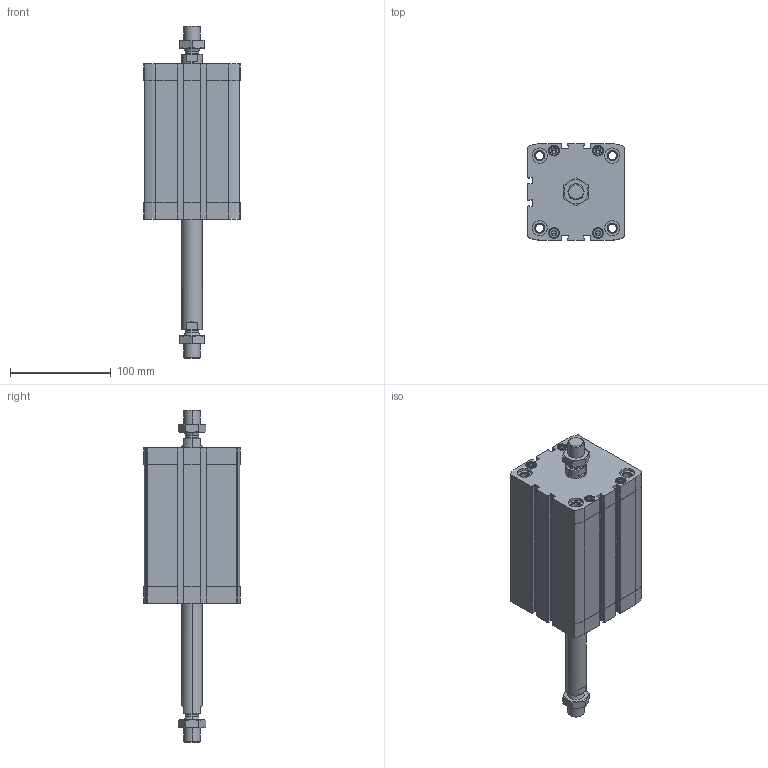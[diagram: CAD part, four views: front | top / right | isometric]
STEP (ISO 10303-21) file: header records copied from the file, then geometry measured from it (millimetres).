
FILE_DESCRIPTION (( 'STEP AP203' ), '1' );
FILE_NAME ('CCN80-100-P.STEP', '2020-06-22T19:08:44', ( '' ), ( '' ), 'SwSTEP 2.0', 'SolidWorks 2019', '' );
FILE_SCHEMA (( 'CONFIG_CONTROL_DESIGN' ));
Length unit declared in the file: millimetre
Products named in the file (1): CCN80-100-P
Bounding box: 95.5 x 95.5 x 329.2 mm (x, y, z)
Volume: 896108.7 mm3; surface area: 184817.3 mm2
Topology: 4 solids, 4 shells, 544 faces, 1352 edges, 848 vertices
Faces by surface type: plane 248, cylinder 196, cone 92, torus 8
Entity records: 17807 total; most frequent: CARTESIAN_POINT 4577, DIRECTION 2866, ORIENTED_EDGE 2672, EDGE_CURVE 1336, AXIS2_PLACEMENT_3D 1077, VERTEX_POINT 848, VECTOR 712, LINE 712
